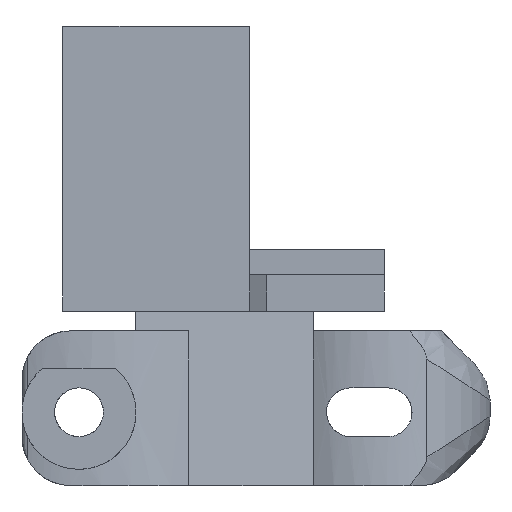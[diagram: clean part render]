
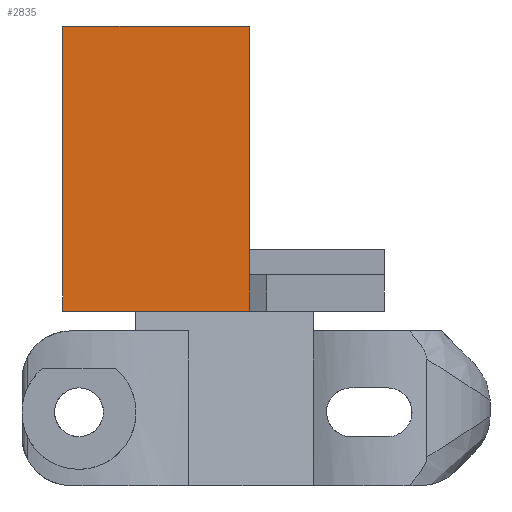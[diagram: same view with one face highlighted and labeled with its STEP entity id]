
A CAD part, left-side view. The second image highlights one B-rep face of the part: STEP entity #2835.
In plain terms, the highlighted planar face has unit normal (-1, 0, 0).
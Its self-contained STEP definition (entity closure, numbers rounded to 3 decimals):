
#161 = VERTEX_POINT ( 'NONE', #196 ) ;
#196 = CARTESIAN_POINT ( 'NONE',  ( -103., 28.525, 73.5 ) ) ;
#383 = CARTESIAN_POINT ( 'NONE',  ( -103., 28.525, 43. ) ) ;
#504 = LINE ( 'NONE', #4593, #6570 ) ;
#537 = ORIENTED_EDGE ( 'NONE', *, *, #4611, .T. ) ;
#675 = DIRECTION ( 'NONE',  ( 0., 0., -1. ) ) ;
#870 = EDGE_CURVE ( 'NONE', #1388, #6778, #504, .T. ) ;
#1078 = VERTEX_POINT ( 'NONE', #5003 ) ;
#1388 = VERTEX_POINT ( 'NONE', #4007 ) ;
#1951 = DIRECTION ( 'NONE',  ( 0., 0., -1. ) ) ;
#1988 = LINE ( 'NONE', #5716, #5077 ) ;
#2073 = CARTESIAN_POINT ( 'NONE',  ( -103., 51.5, 38.5 ) ) ;
#2485 = LINE ( 'NONE', #7896, #6322 ) ;
#2824 = ORIENTED_EDGE ( 'NONE', *, *, #4088, .T. ) ;
#2835 = ADVANCED_FACE ( 'NONE', ( #7978 ), #3177, .T. ) ;
#2909 = VECTOR ( 'NONE', #3758, 1000. ) ;
#2991 = VERTEX_POINT ( 'NONE', #5384 ) ;
#3177 = PLANE ( 'NONE',  #5752 ) ;
#3238 = EDGE_LOOP ( 'NONE', ( #7952, #7393, #6721, #2824, #5445, #537 ) ) ;
#3431 = LINE ( 'NONE', #7773, #2909 ) ;
#3758 = DIRECTION ( 'NONE',  ( 0., 0., 1. ) ) ;
#4007 = CARTESIAN_POINT ( 'NONE',  ( -103., 51.5, 42.9 ) ) ;
#4032 = DIRECTION ( 'NONE',  ( 0., 0., 1. ) ) ;
#4088 = EDGE_CURVE ( 'NONE', #5599, #161, #3431, .T. ) ;
#4175 = EDGE_CURVE ( 'NONE', #5599, #1078, #2485, .T. ) ;
#4549 = CARTESIAN_POINT ( 'NONE',  ( -103., 28.525, 38.5 ) ) ;
#4593 = CARTESIAN_POINT ( 'NONE',  ( -103., 51.5, 38.5 ) ) ;
#4611 = EDGE_CURVE ( 'NONE', #2991, #1388, #7941, .T. ) ;
#5003 = CARTESIAN_POINT ( 'NONE',  ( -103., 28.525, 38.5 ) ) ;
#5077 = VECTOR ( 'NONE', #5820, 1000. ) ;
#5339 = DIRECTION ( 'NONE',  ( -1., 0., 0. ) ) ;
#5384 = CARTESIAN_POINT ( 'NONE',  ( -103., 51.5, 73.5 ) ) ;
#5445 = ORIENTED_EDGE ( 'NONE', *, *, #6633, .T. ) ;
#5599 = VERTEX_POINT ( 'NONE', #383 ) ;
#5685 = VECTOR ( 'NONE', #7663, 1000. ) ;
#5716 = CARTESIAN_POINT ( 'NONE',  ( -103., 27.75, 38.5 ) ) ;
#5752 = AXIS2_PLACEMENT_3D ( 'NONE', #4549, #5339, #4032 ) ;
#5820 = DIRECTION ( 'NONE',  ( 0., -1., 0. ) ) ;
#5903 = CARTESIAN_POINT ( 'NONE',  ( -103., 51.5, 38.5 ) ) ;
#6322 = VECTOR ( 'NONE', #1951, 1000. ) ;
#6570 = VECTOR ( 'NONE', #675, 1000. ) ;
#6633 = EDGE_CURVE ( 'NONE', #161, #2991, #8240, .T. ) ;
#6721 = ORIENTED_EDGE ( 'NONE', *, *, #4175, .F. ) ;
#6778 = VERTEX_POINT ( 'NONE', #5903 ) ;
#6988 = CARTESIAN_POINT ( 'NONE',  ( -103., 28.525, 73.5 ) ) ;
#7331 = VECTOR ( 'NONE', #7988, 1000. ) ;
#7393 = ORIENTED_EDGE ( 'NONE', *, *, #7757, .T. ) ;
#7663 = DIRECTION ( 'NONE',  ( 0., 1., 0. ) ) ;
#7757 = EDGE_CURVE ( 'NONE', #6778, #1078, #1988, .T. ) ;
#7773 = CARTESIAN_POINT ( 'NONE',  ( -103., 28.525, 38.5 ) ) ;
#7896 = CARTESIAN_POINT ( 'NONE',  ( -103., 28.525, 38.5 ) ) ;
#7941 = LINE ( 'NONE', #2073, #7331 ) ;
#7952 = ORIENTED_EDGE ( 'NONE', *, *, #870, .T. ) ;
#7978 = FACE_OUTER_BOUND ( 'NONE', #3238, .T. ) ;
#7988 = DIRECTION ( 'NONE',  ( 0., 0., -1. ) ) ;
#8240 = LINE ( 'NONE', #6988, #5685 ) ;
